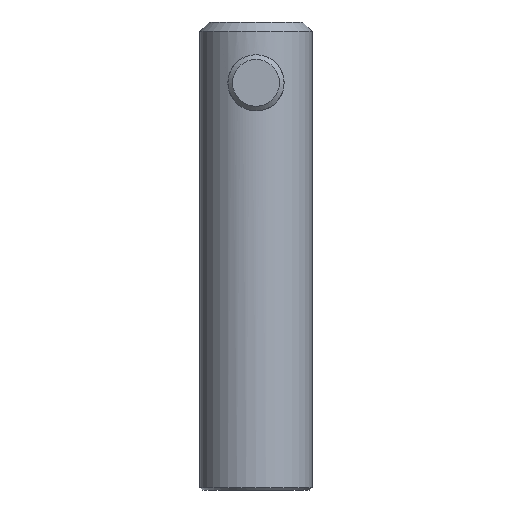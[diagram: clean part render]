
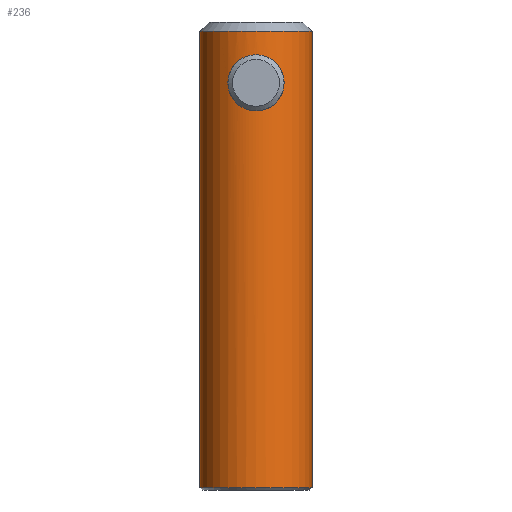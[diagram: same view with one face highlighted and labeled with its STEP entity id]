
A CAD part, left-side view. The second image highlights one B-rep face of the part: STEP entity #236.
In plain terms, the highlighted cylindrical face has radius 12 mm (diameter 24 mm), a full revolution.
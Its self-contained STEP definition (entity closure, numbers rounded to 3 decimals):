
#24=FACE_BOUND('',#51,.T.);
#26=B_SPLINE_CURVE_WITH_KNOTS('',3,(#378,#379,#380,#381,#382,#383,#384,
#385,#386,#387),.UNSPECIFIED.,.F.,.F.,(4,2,2,2,4),(2.768,2.998,
3.228,3.459,3.69),.UNSPECIFIED.);
#27=B_SPLINE_CURVE_WITH_KNOTS('',3,(#389,#390,#391,#392,#393,#394,#395,
#396,#397,#398),.UNSPECIFIED.,.F.,.F.,(4,2,2,2,4),(0.,0.231,
0.462,0.692,0.923),.UNSPECIFIED.);
#28=B_SPLINE_CURVE_WITH_KNOTS('',3,(#400,#401,#402,#403,#404,#405,#406,
#407,#408,#409,#410,#411,#412,#413,#414,#415,#416,#417),.UNSPECIFIED.,.F.,
 .F.,(4,2,2,2,2,2,2,2,4),(0.923,1.153,1.383,
1.614,1.845,2.076,2.307,2.537,
2.768),.UNSPECIFIED.);
#29=B_SPLINE_CURVE_WITH_KNOTS('',3,(#419,#420,#421,#422,#423,#424,#425,
#426,#427,#428,#429,#430,#431,#432,#433,#434,#435,#436,#437,#438,#439,#440,
#441,#442,#443,#444,#445,#446,#447,#448,#449,#450,#451,#452),
 .UNSPECIFIED.,.T.,.F.,(4,2,2,2,2,2,2,2,2,2,2,2,2,2,2,2,4),(0.,0.231,
0.462,0.692,0.923,1.153,
1.383,1.614,1.845,2.076,2.307,
2.537,2.768,2.998,3.228,3.459,
3.69),.UNSPECIFIED.);
#30=CYLINDRICAL_SURFACE('',#274,12.);
#34=FACE_OUTER_BOUND('',#50,.T.);
#50=EDGE_LOOP('',(#171,#172,#173,#174,#175,#176,#177,#178,#179));
#51=EDGE_LOOP('',(#180));
#68=LINE('',#376,#88);
#69=LINE('',#399,#89);
#88=VECTOR('',#308,12.);
#89=VECTOR('',#309,12.);
#108=CIRCLE('',#273,12.);
#109=CIRCLE('',#275,12.);
#116=VERTEX_POINT('',#369);
#117=VERTEX_POINT('',#373);
#118=VERTEX_POINT('',#375);
#119=VERTEX_POINT('',#377);
#120=VERTEX_POINT('',#388);
#121=VERTEX_POINT('',#418);
#137=EDGE_CURVE('',#116,#116,#108,.T.);
#138=EDGE_CURVE('',#117,#117,#109,.T.);
#139=EDGE_CURVE('',#117,#118,#68,.T.);
#140=EDGE_CURVE('',#118,#119,#26,.T.);
#141=EDGE_CURVE('',#119,#120,#27,.T.);
#142=EDGE_CURVE('',#120,#116,#69,.T.);
#143=EDGE_CURVE('',#120,#118,#28,.T.);
#144=EDGE_CURVE('',#121,#121,#29,.T.);
#171=ORIENTED_EDGE('',*,*,#138,.F.);
#172=ORIENTED_EDGE('',*,*,#139,.T.);
#173=ORIENTED_EDGE('',*,*,#140,.T.);
#174=ORIENTED_EDGE('',*,*,#141,.T.);
#175=ORIENTED_EDGE('',*,*,#142,.T.);
#176=ORIENTED_EDGE('',*,*,#137,.F.);
#177=ORIENTED_EDGE('',*,*,#142,.F.);
#178=ORIENTED_EDGE('',*,*,#143,.T.);
#179=ORIENTED_EDGE('',*,*,#139,.F.);
#180=ORIENTED_EDGE('',*,*,#144,.T.);
#236=ADVANCED_FACE('',(#34,#24),#30,.T.);
#273=AXIS2_PLACEMENT_3D('',#371,#302,#303);
#274=AXIS2_PLACEMENT_3D('',#372,#304,#305);
#275=AXIS2_PLACEMENT_3D('',#374,#306,#307);
#302=DIRECTION('center_axis',(0.,0.,-1.));
#303=DIRECTION('ref_axis',(-1.,0.,0.));
#304=DIRECTION('center_axis',(0.,0.,1.));
#305=DIRECTION('ref_axis',(-1.,0.,0.));
#306=DIRECTION('center_axis',(0.,0.,1.));
#307=DIRECTION('ref_axis',(-1.,0.,0.));
#308=DIRECTION('',(0.,0.,-1.));
#309=DIRECTION('',(0.,0.,-1.));
#369=CARTESIAN_POINT('',(12.,0.,0.5));
#371=CARTESIAN_POINT('Origin',(0.,0.,0.5));
#372=CARTESIAN_POINT('Origin',(0.,0.,0.));
#373=CARTESIAN_POINT('',(12.,0.,98.));
#374=CARTESIAN_POINT('Origin',(0.,0.,98.));
#375=CARTESIAN_POINT('',(12.,0.,93.));
#376=CARTESIAN_POINT('',(12.,0.,0.));
#377=CARTESIAN_POINT('',(10.392,6.,87.));
#378=CARTESIAN_POINT('Ctrl Pts',(12.,0.,93.));
#379=CARTESIAN_POINT('Ctrl Pts',(12.,0.768,93.));
#380=CARTESIAN_POINT('Ctrl Pts',(11.92,1.578,92.844));
#381=CARTESIAN_POINT('Ctrl Pts',(11.63,3.052,92.227));
#382=CARTESIAN_POINT('Ctrl Pts',(11.423,3.718,91.767));
#383=CARTESIAN_POINT('Ctrl Pts',(11.026,4.769,90.717));
#384=CARTESIAN_POINT('Ctrl Pts',(10.807,5.227,90.051));
#385=CARTESIAN_POINT('Ctrl Pts',(10.487,5.843,88.579));
#386=CARTESIAN_POINT('Ctrl Pts',(10.392,6.,87.77));
#387=CARTESIAN_POINT('Ctrl Pts',(10.392,6.,87.));
#388=CARTESIAN_POINT('',(12.,0.,81.));
#389=CARTESIAN_POINT('Ctrl Pts',(10.392,6.,87.));
#390=CARTESIAN_POINT('Ctrl Pts',(10.392,6.,86.23));
#391=CARTESIAN_POINT('Ctrl Pts',(10.487,5.843,85.421));
#392=CARTESIAN_POINT('Ctrl Pts',(10.807,5.227,83.949));
#393=CARTESIAN_POINT('Ctrl Pts',(11.026,4.769,83.283));
#394=CARTESIAN_POINT('Ctrl Pts',(11.423,3.718,82.233));
#395=CARTESIAN_POINT('Ctrl Pts',(11.63,3.052,81.773));
#396=CARTESIAN_POINT('Ctrl Pts',(11.92,1.578,81.156));
#397=CARTESIAN_POINT('Ctrl Pts',(12.,0.768,81.));
#398=CARTESIAN_POINT('Ctrl Pts',(12.,0.,81.));
#399=CARTESIAN_POINT('',(12.,0.,0.));
#400=CARTESIAN_POINT('Ctrl Pts',(12.,0.,81.));
#401=CARTESIAN_POINT('Ctrl Pts',(12.,-0.768,81.));
#402=CARTESIAN_POINT('Ctrl Pts',(11.92,-1.578,81.156));
#403=CARTESIAN_POINT('Ctrl Pts',(11.63,-3.052,81.773));
#404=CARTESIAN_POINT('Ctrl Pts',(11.423,-3.718,82.233));
#405=CARTESIAN_POINT('Ctrl Pts',(11.026,-4.769,83.283));
#406=CARTESIAN_POINT('Ctrl Pts',(10.807,-5.227,83.949));
#407=CARTESIAN_POINT('Ctrl Pts',(10.487,-5.843,85.421));
#408=CARTESIAN_POINT('Ctrl Pts',(10.392,-6.,86.23));
#409=CARTESIAN_POINT('Ctrl Pts',(10.392,-6.,87.77));
#410=CARTESIAN_POINT('Ctrl Pts',(10.487,-5.843,88.579));
#411=CARTESIAN_POINT('Ctrl Pts',(10.807,-5.227,90.051));
#412=CARTESIAN_POINT('Ctrl Pts',(11.026,-4.769,90.717));
#413=CARTESIAN_POINT('Ctrl Pts',(11.423,-3.718,91.767));
#414=CARTESIAN_POINT('Ctrl Pts',(11.63,-3.052,92.227));
#415=CARTESIAN_POINT('Ctrl Pts',(11.92,-1.578,92.844));
#416=CARTESIAN_POINT('Ctrl Pts',(12.,-0.768,93.));
#417=CARTESIAN_POINT('Ctrl Pts',(12.,0.,93.));
#418=CARTESIAN_POINT('',(-10.392,6.,87.));
#419=CARTESIAN_POINT('Ctrl Pts',(-10.392,6.,87.));
#420=CARTESIAN_POINT('Ctrl Pts',(-10.392,6.,87.77));
#421=CARTESIAN_POINT('Ctrl Pts',(-10.487,5.843,88.579));
#422=CARTESIAN_POINT('Ctrl Pts',(-10.807,5.227,90.051));
#423=CARTESIAN_POINT('Ctrl Pts',(-11.026,4.769,90.717));
#424=CARTESIAN_POINT('Ctrl Pts',(-11.423,3.718,91.767));
#425=CARTESIAN_POINT('Ctrl Pts',(-11.63,3.052,92.227));
#426=CARTESIAN_POINT('Ctrl Pts',(-11.92,1.578,92.844));
#427=CARTESIAN_POINT('Ctrl Pts',(-12.,0.768,93.));
#428=CARTESIAN_POINT('Ctrl Pts',(-12.,-0.768,93.));
#429=CARTESIAN_POINT('Ctrl Pts',(-11.92,-1.578,92.844));
#430=CARTESIAN_POINT('Ctrl Pts',(-11.63,-3.052,92.227));
#431=CARTESIAN_POINT('Ctrl Pts',(-11.423,-3.718,91.767));
#432=CARTESIAN_POINT('Ctrl Pts',(-11.026,-4.769,90.717));
#433=CARTESIAN_POINT('Ctrl Pts',(-10.807,-5.227,90.051));
#434=CARTESIAN_POINT('Ctrl Pts',(-10.487,-5.843,88.579));
#435=CARTESIAN_POINT('Ctrl Pts',(-10.392,-6.,87.77));
#436=CARTESIAN_POINT('Ctrl Pts',(-10.392,-6.,86.23));
#437=CARTESIAN_POINT('Ctrl Pts',(-10.487,-5.843,85.421));
#438=CARTESIAN_POINT('Ctrl Pts',(-10.807,-5.227,83.949));
#439=CARTESIAN_POINT('Ctrl Pts',(-11.026,-4.769,83.283));
#440=CARTESIAN_POINT('Ctrl Pts',(-11.423,-3.718,82.233));
#441=CARTESIAN_POINT('Ctrl Pts',(-11.63,-3.052,81.773));
#442=CARTESIAN_POINT('Ctrl Pts',(-11.92,-1.578,81.156));
#443=CARTESIAN_POINT('Ctrl Pts',(-12.,-0.768,81.));
#444=CARTESIAN_POINT('Ctrl Pts',(-12.,0.768,81.));
#445=CARTESIAN_POINT('Ctrl Pts',(-11.92,1.578,81.156));
#446=CARTESIAN_POINT('Ctrl Pts',(-11.63,3.052,81.773));
#447=CARTESIAN_POINT('Ctrl Pts',(-11.423,3.718,82.233));
#448=CARTESIAN_POINT('Ctrl Pts',(-11.026,4.769,83.283));
#449=CARTESIAN_POINT('Ctrl Pts',(-10.807,5.227,83.949));
#450=CARTESIAN_POINT('Ctrl Pts',(-10.487,5.843,85.421));
#451=CARTESIAN_POINT('Ctrl Pts',(-10.392,6.,86.23));
#452=CARTESIAN_POINT('Ctrl Pts',(-10.392,6.,87.));
